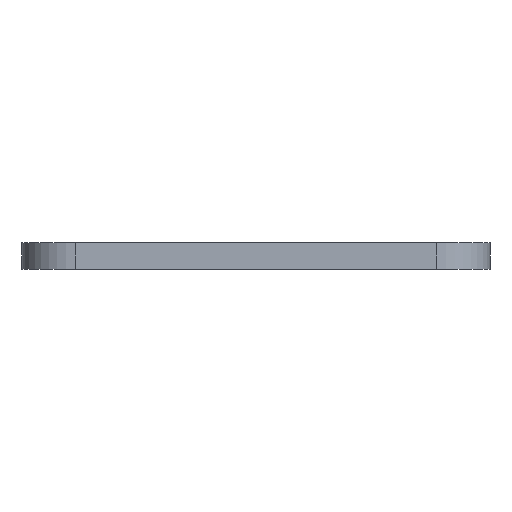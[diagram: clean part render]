
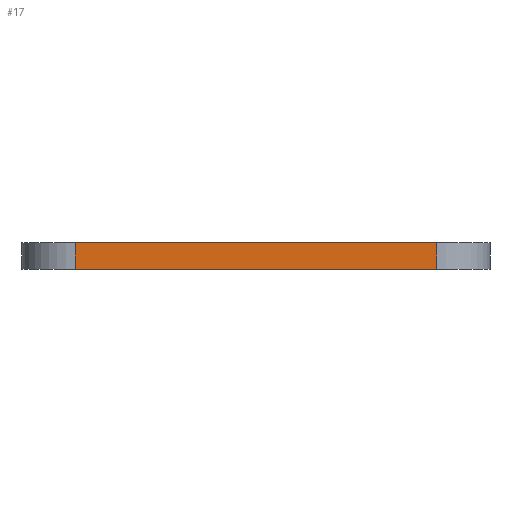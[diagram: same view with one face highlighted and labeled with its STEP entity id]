
A CAD part, left-side view. The second image highlights one B-rep face of the part: STEP entity #17.
In plain terms, the highlighted planar face has unit normal (-1, 0, 0).
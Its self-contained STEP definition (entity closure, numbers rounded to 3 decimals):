
#17 = ADVANCED_FACE('',(#18),#32,.F.);
#18 = FACE_BOUND('',#19,.F.);
#19 = EDGE_LOOP('',(#20,#55,#83,#111));
#20 = ORIENTED_EDGE('',*,*,#21,.F.);
#21 = EDGE_CURVE('',#22,#24,#26,.T.);
#22 = VERTEX_POINT('',#23);
#23 = CARTESIAN_POINT('',(-46.,-27.,2.));
#24 = VERTEX_POINT('',#25);
#25 = CARTESIAN_POINT('',(-46.,27.,2.));
#26 = SURFACE_CURVE('',#27,(#31,#43),.PCURVE_S1.);
#27 = LINE('',#28,#29);
#28 = CARTESIAN_POINT('',(-46.,-35.,2.));
#29 = VECTOR('',#30,1.);
#30 = DIRECTION('',(0.,1.,0.));
#31 = PCURVE('',#32,#37);
#32 = PLANE('',#33);
#33 = AXIS2_PLACEMENT_3D('',#34,#35,#36);
#34 = CARTESIAN_POINT('',(-46.,-35.,-2.));
#35 = DIRECTION('',(1.,0.,0.));
#36 = DIRECTION('',(0.,0.,1.));
#37 = DEFINITIONAL_REPRESENTATION('',(#38),#42);
#38 = LINE('',#39,#40);
#39 = CARTESIAN_POINT('',(4.,0.));
#40 = VECTOR('',#41,1.);
#41 = DIRECTION('',(0.,-1.));
#42 = ( GEOMETRIC_REPRESENTATION_CONTEXT(2) 
PARAMETRIC_REPRESENTATION_CONTEXT() REPRESENTATION_CONTEXT('2D SPACE',''
  ) );
#43 = PCURVE('',#44,#49);
#44 = PLANE('',#45);
#45 = AXIS2_PLACEMENT_3D('',#46,#47,#48);
#46 = CARTESIAN_POINT('',(-46.,-35.,2.));
#47 = DIRECTION('',(0.,0.,1.));
#48 = DIRECTION('',(1.,0.,0.));
#49 = DEFINITIONAL_REPRESENTATION('',(#50),#54);
#50 = LINE('',#51,#52);
#51 = CARTESIAN_POINT('',(0.,0.));
#52 = VECTOR('',#53,1.);
#53 = DIRECTION('',(0.,1.));
#54 = ( GEOMETRIC_REPRESENTATION_CONTEXT(2) 
PARAMETRIC_REPRESENTATION_CONTEXT() REPRESENTATION_CONTEXT('2D SPACE',''
  ) );
#55 = ORIENTED_EDGE('',*,*,#56,.F.);
#56 = EDGE_CURVE('',#57,#22,#59,.T.);
#57 = VERTEX_POINT('',#58);
#58 = CARTESIAN_POINT('',(-46.,-27.,-2.));
#59 = SURFACE_CURVE('',#60,(#64,#71),.PCURVE_S1.);
#60 = LINE('',#61,#62);
#61 = CARTESIAN_POINT('',(-46.,-27.,-2.));
#62 = VECTOR('',#63,1.);
#63 = DIRECTION('',(0.,0.,1.));
#64 = PCURVE('',#32,#65);
#65 = DEFINITIONAL_REPRESENTATION('',(#66),#70);
#66 = LINE('',#67,#68);
#67 = CARTESIAN_POINT('',(0.,-8.));
#68 = VECTOR('',#69,1.);
#69 = DIRECTION('',(1.,0.));
#70 = ( GEOMETRIC_REPRESENTATION_CONTEXT(2) 
PARAMETRIC_REPRESENTATION_CONTEXT() REPRESENTATION_CONTEXT('2D SPACE',''
  ) );
#71 = PCURVE('',#72,#77);
#72 = CYLINDRICAL_SURFACE('',#73,8.);
#73 = AXIS2_PLACEMENT_3D('',#74,#75,#76);
#74 = CARTESIAN_POINT('',(-38.,-27.,-2.));
#75 = DIRECTION('',(0.,0.,1.));
#76 = DIRECTION('',(-1.,-0.,0.));
#77 = DEFINITIONAL_REPRESENTATION('',(#78),#82);
#78 = LINE('',#79,#80);
#79 = CARTESIAN_POINT('',(0.,0.));
#80 = VECTOR('',#81,1.);
#81 = DIRECTION('',(0.,1.));
#82 = ( GEOMETRIC_REPRESENTATION_CONTEXT(2) 
PARAMETRIC_REPRESENTATION_CONTEXT() REPRESENTATION_CONTEXT('2D SPACE',''
  ) );
#83 = ORIENTED_EDGE('',*,*,#84,.T.);
#84 = EDGE_CURVE('',#57,#85,#87,.T.);
#85 = VERTEX_POINT('',#86);
#86 = CARTESIAN_POINT('',(-46.,27.,-2.));
#87 = SURFACE_CURVE('',#88,(#92,#99),.PCURVE_S1.);
#88 = LINE('',#89,#90);
#89 = CARTESIAN_POINT('',(-46.,-35.,-2.));
#90 = VECTOR('',#91,1.);
#91 = DIRECTION('',(0.,1.,0.));
#92 = PCURVE('',#32,#93);
#93 = DEFINITIONAL_REPRESENTATION('',(#94),#98);
#94 = LINE('',#95,#96);
#95 = CARTESIAN_POINT('',(0.,0.));
#96 = VECTOR('',#97,1.);
#97 = DIRECTION('',(0.,-1.));
#98 = ( GEOMETRIC_REPRESENTATION_CONTEXT(2) 
PARAMETRIC_REPRESENTATION_CONTEXT() REPRESENTATION_CONTEXT('2D SPACE',''
  ) );
#99 = PCURVE('',#100,#105);
#100 = PLANE('',#101);
#101 = AXIS2_PLACEMENT_3D('',#102,#103,#104);
#102 = CARTESIAN_POINT('',(-46.,-35.,-2.));
#103 = DIRECTION('',(0.,0.,1.));
#104 = DIRECTION('',(1.,0.,0.));
#105 = DEFINITIONAL_REPRESENTATION('',(#106),#110);
#106 = LINE('',#107,#108);
#107 = CARTESIAN_POINT('',(0.,0.));
#108 = VECTOR('',#109,1.);
#109 = DIRECTION('',(0.,1.));
#110 = ( GEOMETRIC_REPRESENTATION_CONTEXT(2) 
PARAMETRIC_REPRESENTATION_CONTEXT() REPRESENTATION_CONTEXT('2D SPACE',''
  ) );
#111 = ORIENTED_EDGE('',*,*,#112,.T.);
#112 = EDGE_CURVE('',#85,#24,#113,.T.);
#113 = SURFACE_CURVE('',#114,(#118,#125),.PCURVE_S1.);
#114 = LINE('',#115,#116);
#115 = CARTESIAN_POINT('',(-46.,27.,-2.));
#116 = VECTOR('',#117,1.);
#117 = DIRECTION('',(0.,0.,1.));
#118 = PCURVE('',#32,#119);
#119 = DEFINITIONAL_REPRESENTATION('',(#120),#124);
#120 = LINE('',#121,#122);
#121 = CARTESIAN_POINT('',(0.,-62.));
#122 = VECTOR('',#123,1.);
#123 = DIRECTION('',(1.,0.));
#124 = ( GEOMETRIC_REPRESENTATION_CONTEXT(2) 
PARAMETRIC_REPRESENTATION_CONTEXT() REPRESENTATION_CONTEXT('2D SPACE',''
  ) );
#125 = PCURVE('',#126,#131);
#126 = CYLINDRICAL_SURFACE('',#127,8.);
#127 = AXIS2_PLACEMENT_3D('',#128,#129,#130);
#128 = CARTESIAN_POINT('',(-38.,27.,-2.));
#129 = DIRECTION('',(0.,0.,1.));
#130 = DIRECTION('',(-1.,-0.,0.));
#131 = DEFINITIONAL_REPRESENTATION('',(#132),#136);
#132 = LINE('',#133,#134);
#133 = CARTESIAN_POINT('',(-0.,0.));
#134 = VECTOR('',#135,1.);
#135 = DIRECTION('',(-0.,1.));
#136 = ( GEOMETRIC_REPRESENTATION_CONTEXT(2) 
PARAMETRIC_REPRESENTATION_CONTEXT() REPRESENTATION_CONTEXT('2D SPACE',''
  ) );
